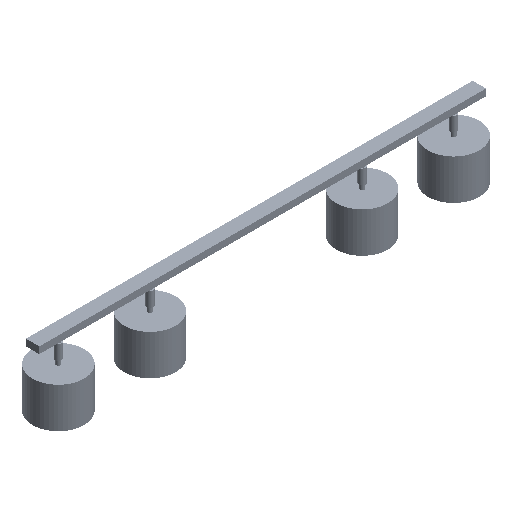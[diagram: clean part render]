
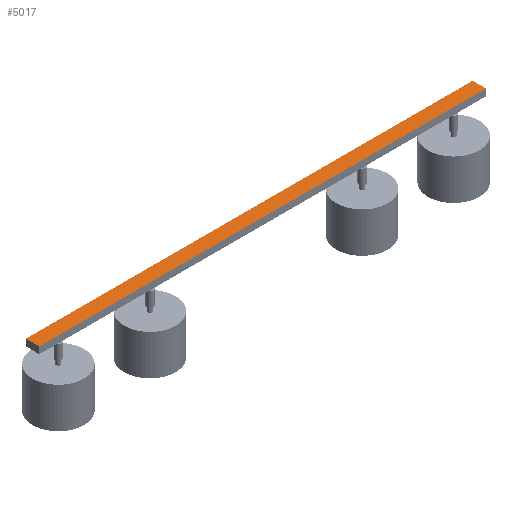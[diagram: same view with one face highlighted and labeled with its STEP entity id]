
A CAD part, isometric view. The second image highlights one B-rep face of the part: STEP entity #5017.
In plain terms, the highlighted free-form (B-spline) face has degree [1, 1] with [2, 2] control points.
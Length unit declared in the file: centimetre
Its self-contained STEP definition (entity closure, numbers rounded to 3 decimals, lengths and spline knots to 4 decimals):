
#4906 = CARTESIAN_POINT ('', (-47.3855, 73.0844, 107.2743));
#4907 = VERTEX_POINT ('', #4906);
#4922 = CARTESIAN_POINT ('', (52.6145, 73.0844, 107.2743));
#4923 = VERTEX_POINT ('', #4922);
#4929 = CARTESIAN_POINT ('', (52.6145, 73.0844, 107.2743));
#4930 = CARTESIAN_POINT ('', (-47.3855, 73.0844, 107.2743));
#4931 = B_SPLINE_CURVE_WITH_KNOTS ('', 1, (#4929, #4930), .UNSPECIFIED., .F., .U., (2, 2), (0., 1.), .UNSPECIFIED.);
#4932 = EDGE_CURVE ('', #4923, #4907, #4931, .T.);
#4970 = CARTESIAN_POINT ('', (-47.3855, 76.0844, 107.2743));
#4971 = VERTEX_POINT ('', #4970);
#4977 = CARTESIAN_POINT ('', (52.6145, 76.0844, 107.2743));
#4978 = VERTEX_POINT ('', #4977);
#4979 = CARTESIAN_POINT ('', (-47.3855, 76.0844, 107.2743));
#4980 = CARTESIAN_POINT ('', (52.6145, 76.0844, 107.2743));
#4981 = B_SPLINE_CURVE_WITH_KNOTS ('', 1, (#4979, #4980), .UNSPECIFIED., .F., .U., (2, 2), (0., 1.), .UNSPECIFIED.);
#4982 = EDGE_CURVE ('', #4971, #4978, #4981, .T.);
#4998 = CARTESIAN_POINT ('', (-47.3855, 76.0844, 107.2743));
#4999 = CARTESIAN_POINT ('', (-47.3855, 73.0844, 107.2743));
#5000 = B_SPLINE_CURVE_WITH_KNOTS ('', 1, (#4998, #4999), .UNSPECIFIED., .F., .U., (2, 2), (0., 1.), .UNSPECIFIED.);
#5001 = EDGE_CURVE ('', #4971, #4907, #5000, .T.);
#5002 = ORIENTED_EDGE ('', *, *, #5001, .T.);
#5003 = ORIENTED_EDGE ('', *, *, #4932, .F.);
#5004 = CARTESIAN_POINT ('', (52.6145, 76.0844, 107.2743));
#5005 = CARTESIAN_POINT ('', (52.6145, 73.0844, 107.2743));
#5006 = B_SPLINE_CURVE_WITH_KNOTS ('', 1, (#5004, #5005), .UNSPECIFIED., .F., .U., (2, 2), (0., 1.), .UNSPECIFIED.);
#5007 = EDGE_CURVE ('', #4978, #4923, #5006, .T.);
#5008 = ORIENTED_EDGE ('', *, *, #5007, .F.);
#5009 = ORIENTED_EDGE ('', *, *, #4982, .F.);
#5010 = EDGE_LOOP ('', (#5002, #5003, #5008, #5009));
#5011 = FACE_OUTER_BOUND ('', #5010, .T.);
#5012 = CARTESIAN_POINT ('', (107.6617, -30.4629, 107.2743));
#5013 = CARTESIAN_POINT ('', (-102.4328, -30.4629, 107.2743));
#5014 = CARTESIAN_POINT ('', (107.6617, 179.6316, 107.2743));
#5015 = CARTESIAN_POINT ('', (-102.4328, 179.6316, 107.2743));
#5016 = B_SPLINE_SURFACE_WITH_KNOTS ('', 1, 1, ((#5012, #5013), (#5014, #5015)), .UNSPECIFIED., .F., .F., .U., (2, 2), (2, 2), (0., 1.), (0., 1.), .UNSPECIFIED.);
#5017 = ADVANCED_FACE ('', (#5011), #5016, .T.);
